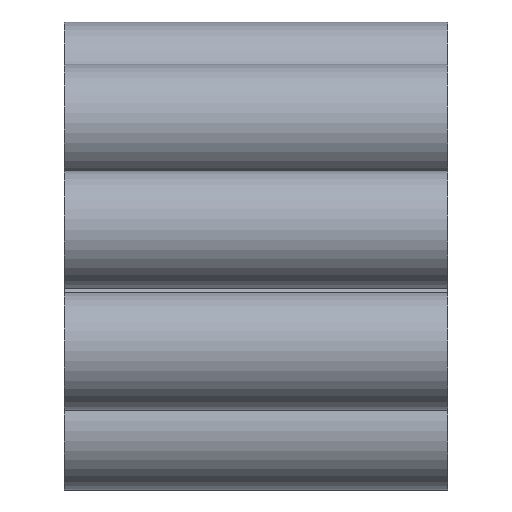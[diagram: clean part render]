
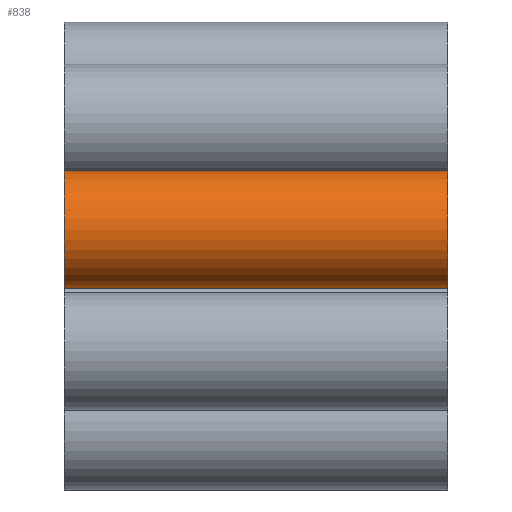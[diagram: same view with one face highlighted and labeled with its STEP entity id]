
A CAD part, top view. The second image highlights one B-rep face of the part: STEP entity #838.
In plain terms, the highlighted cylindrical face has radius 10.775 mm (diameter 21.55 mm), a full revolution.
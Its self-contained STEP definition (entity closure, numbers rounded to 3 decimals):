
#838 = ADVANCED_FACE('',(#839),#853,.T.);
#839 = FACE_BOUND('',#840,.F.);
#840 = EDGE_LOOP('',(#841,#871,#898,#899));
#841 = ORIENTED_EDGE('',*,*,#842,.T.);
#842 = EDGE_CURVE('',#843,#845,#847,.T.);
#843 = VERTEX_POINT('',#844);
#844 = CARTESIAN_POINT('',(102.,16.505,28.499));
#845 = VERTEX_POINT('',#846);
#846 = CARTESIAN_POINT('',(172.15,16.505,28.499));
#847 = SEAM_CURVE('',#848,(#852,#864),.PCURVE_S1.);
#848 = LINE('',#849,#850);
#849 = CARTESIAN_POINT('',(102.,16.505,28.499));
#850 = VECTOR('',#851,1.);
#851 = DIRECTION('',(1.,0.,0.));
#852 = PCURVE('',#853,#858);
#853 = CYLINDRICAL_SURFACE('',#854,10.775);
#854 = AXIS2_PLACEMENT_3D('',#855,#856,#857);
#855 = CARTESIAN_POINT('',(102.,5.73,28.499));
#856 = DIRECTION('',(-1.,-0.,-0.));
#857 = DIRECTION('',(0.,1.,0.));
#858 = DEFINITIONAL_REPRESENTATION('',(#859),#863);
#859 = LINE('',#860,#861);
#860 = CARTESIAN_POINT('',(-0.,0.));
#861 = VECTOR('',#862,1.);
#862 = DIRECTION('',(-0.,-1.));
#863 = ( GEOMETRIC_REPRESENTATION_CONTEXT(2) 
PARAMETRIC_REPRESENTATION_CONTEXT() REPRESENTATION_CONTEXT('2D SPACE',''
  ) );
#864 = PCURVE('',#853,#865);
#865 = DEFINITIONAL_REPRESENTATION('',(#866),#870);
#866 = LINE('',#867,#868);
#867 = CARTESIAN_POINT('',(-6.283,0.));
#868 = VECTOR('',#869,1.);
#869 = DIRECTION('',(-0.,-1.));
#870 = ( GEOMETRIC_REPRESENTATION_CONTEXT(2) 
PARAMETRIC_REPRESENTATION_CONTEXT() REPRESENTATION_CONTEXT('2D SPACE',''
  ) );
#871 = ORIENTED_EDGE('',*,*,#872,.T.);
#872 = EDGE_CURVE('',#845,#845,#873,.T.);
#873 = SURFACE_CURVE('',#874,(#879,#886),.PCURVE_S1.);
#874 = CIRCLE('',#875,10.775);
#875 = AXIS2_PLACEMENT_3D('',#876,#877,#878);
#876 = CARTESIAN_POINT('',(172.15,5.73,28.499));
#877 = DIRECTION('',(1.,0.,0.));
#878 = DIRECTION('',(0.,1.,0.));
#879 = PCURVE('',#853,#880);
#880 = DEFINITIONAL_REPRESENTATION('',(#881),#885);
#881 = LINE('',#882,#883);
#882 = CARTESIAN_POINT('',(-0.,-70.15));
#883 = VECTOR('',#884,1.);
#884 = DIRECTION('',(-1.,0.));
#885 = ( GEOMETRIC_REPRESENTATION_CONTEXT(2) 
PARAMETRIC_REPRESENTATION_CONTEXT() REPRESENTATION_CONTEXT('2D SPACE',''
  ) );
#886 = PCURVE('',#887,#892);
#887 = PLANE('',#888);
#888 = AXIS2_PLACEMENT_3D('',#889,#890,#891);
#889 = CARTESIAN_POINT('',(172.15,5.73,28.499));
#890 = DIRECTION('',(1.,0.,0.));
#891 = DIRECTION('',(-0.,0.,1.));
#892 = DEFINITIONAL_REPRESENTATION('',(#893),#897);
#893 = CIRCLE('',#894,10.775);
#894 = AXIS2_PLACEMENT_2D('',#895,#896);
#895 = CARTESIAN_POINT('',(0.,0.));
#896 = DIRECTION('',(0.,-1.));
#897 = ( GEOMETRIC_REPRESENTATION_CONTEXT(2) 
PARAMETRIC_REPRESENTATION_CONTEXT() REPRESENTATION_CONTEXT('2D SPACE',''
  ) );
#898 = ORIENTED_EDGE('',*,*,#842,.F.);
#899 = ORIENTED_EDGE('',*,*,#900,.F.);
#900 = EDGE_CURVE('',#843,#843,#901,.T.);
#901 = SURFACE_CURVE('',#902,(#907,#914),.PCURVE_S1.);
#902 = CIRCLE('',#903,10.775);
#903 = AXIS2_PLACEMENT_3D('',#904,#905,#906);
#904 = CARTESIAN_POINT('',(102.,5.73,28.499));
#905 = DIRECTION('',(1.,0.,0.));
#906 = DIRECTION('',(0.,1.,0.));
#907 = PCURVE('',#853,#908);
#908 = DEFINITIONAL_REPRESENTATION('',(#909),#913);
#909 = LINE('',#910,#911);
#910 = CARTESIAN_POINT('',(-0.,0.));
#911 = VECTOR('',#912,1.);
#912 = DIRECTION('',(-1.,0.));
#913 = ( GEOMETRIC_REPRESENTATION_CONTEXT(2) 
PARAMETRIC_REPRESENTATION_CONTEXT() REPRESENTATION_CONTEXT('2D SPACE',''
  ) );
#914 = PCURVE('',#915,#920);
#915 = PLANE('',#916);
#916 = AXIS2_PLACEMENT_3D('',#917,#918,#919);
#917 = CARTESIAN_POINT('',(102.,5.73,28.499));
#918 = DIRECTION('',(1.,0.,0.));
#919 = DIRECTION('',(-0.,0.,1.));
#920 = DEFINITIONAL_REPRESENTATION('',(#921),#925);
#921 = CIRCLE('',#922,10.775);
#922 = AXIS2_PLACEMENT_2D('',#923,#924);
#923 = CARTESIAN_POINT('',(0.,0.));
#924 = DIRECTION('',(0.,-1.));
#925 = ( GEOMETRIC_REPRESENTATION_CONTEXT(2) 
PARAMETRIC_REPRESENTATION_CONTEXT() REPRESENTATION_CONTEXT('2D SPACE',''
  ) );
